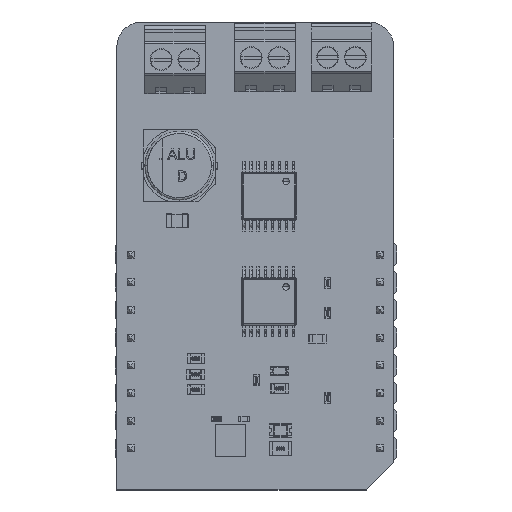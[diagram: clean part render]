
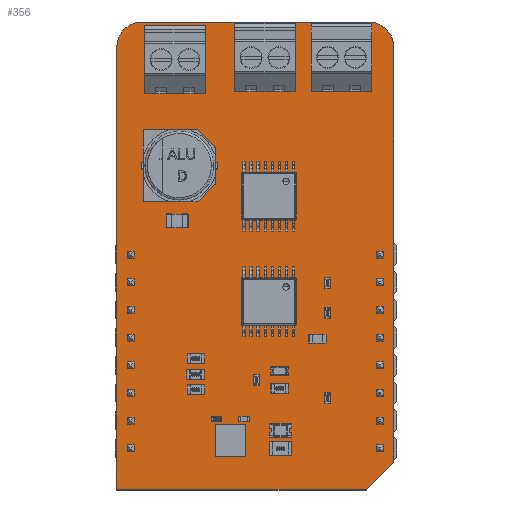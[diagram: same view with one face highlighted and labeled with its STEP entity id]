
A CAD part, top view. The second image highlights one B-rep face of the part: STEP entity #356.
In plain terms, the highlighted planar face has unit normal (0, 0, 1).
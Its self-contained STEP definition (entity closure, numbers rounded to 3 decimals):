
#127 = VERTEX_POINT('',#128);
#128 = CARTESIAN_POINT('',(-1.27,-3.81,0.));
#134 = EDGE_CURVE('',#127,#135,#137,.T.);
#135 = VERTEX_POINT('',#136);
#136 = CARTESIAN_POINT('',(-1.27,36.83,0.));
#137 = LINE('',#138,#139);
#138 = CARTESIAN_POINT('',(-1.27,-3.81,0.));
#139 = VECTOR('',#140,1.);
#140 = DIRECTION('',(0.,1.,0.));
#165 = EDGE_CURVE('',#135,#166,#168,.T.);
#166 = VERTEX_POINT('',#167);
#167 = CARTESIAN_POINT('',(1.016,39.116,0.));
#168 = CIRCLE('',#169,2.288);
#169 = AXIS2_PLACEMENT_3D('',#170,#171,#172);
#170 = CARTESIAN_POINT('',(1.018,36.828,0.));
#171 = DIRECTION('',(0.,0.,-1.));
#172 = DIRECTION('',(-1.,0.001,0.));
#198 = EDGE_CURVE('',#166,#199,#201,.T.);
#199 = VERTEX_POINT('',#200);
#200 = CARTESIAN_POINT('',(21.844,39.116,0.));
#201 = LINE('',#202,#203);
#202 = CARTESIAN_POINT('',(1.016,39.116,0.));
#203 = VECTOR('',#204,1.);
#204 = DIRECTION('',(1.,0.,0.));
#229 = EDGE_CURVE('',#199,#230,#232,.T.);
#230 = VERTEX_POINT('',#231);
#231 = CARTESIAN_POINT('',(24.13,36.83,0.));
#232 = CIRCLE('',#233,2.288);
#233 = AXIS2_PLACEMENT_3D('',#234,#235,#236);
#234 = CARTESIAN_POINT('',(21.842,36.828,0.));
#235 = DIRECTION('',(0.,0.,-1.));
#236 = DIRECTION('',(0.001,1.,0.));
#262 = EDGE_CURVE('',#230,#263,#265,.T.);
#263 = VERTEX_POINT('',#264);
#264 = CARTESIAN_POINT('',(24.13,-1.27,0.));
#265 = LINE('',#266,#267);
#266 = CARTESIAN_POINT('',(24.13,36.83,0.));
#267 = VECTOR('',#268,1.);
#268 = DIRECTION('',(0.,-1.,0.));
#293 = EDGE_CURVE('',#263,#294,#296,.T.);
#294 = VERTEX_POINT('',#295);
#295 = CARTESIAN_POINT('',(21.59,-3.81,0.));
#296 = LINE('',#297,#298);
#297 = CARTESIAN_POINT('',(24.13,-1.27,0.));
#298 = VECTOR('',#299,1.);
#299 = DIRECTION('',(-0.707,-0.707,0.));
#324 = EDGE_CURVE('',#294,#127,#325,.T.);
#325 = LINE('',#326,#327);
#326 = CARTESIAN_POINT('',(21.59,-3.81,0.));
#327 = VECTOR('',#328,1.);
#328 = DIRECTION('',(-1.,0.,0.));
#356 = ADVANCED_FACE('',(#357),#366,.T.);
#357 = FACE_BOUND('',#358,.F.);
#358 = EDGE_LOOP('',(#359,#360,#361,#362,#363,#364,#365));
#359 = ORIENTED_EDGE('',*,*,#134,.T.);
#360 = ORIENTED_EDGE('',*,*,#165,.T.);
#361 = ORIENTED_EDGE('',*,*,#198,.T.);
#362 = ORIENTED_EDGE('',*,*,#229,.T.);
#363 = ORIENTED_EDGE('',*,*,#262,.T.);
#364 = ORIENTED_EDGE('',*,*,#293,.T.);
#365 = ORIENTED_EDGE('',*,*,#324,.T.);
#366 = PLANE('',#367);
#367 = AXIS2_PLACEMENT_3D('',#368,#369,#370);
#368 = CARTESIAN_POINT('',(-1.27,-3.81,0.));
#369 = DIRECTION('',(0.,0.,1.));
#370 = DIRECTION('',(1.,0.,0.));
